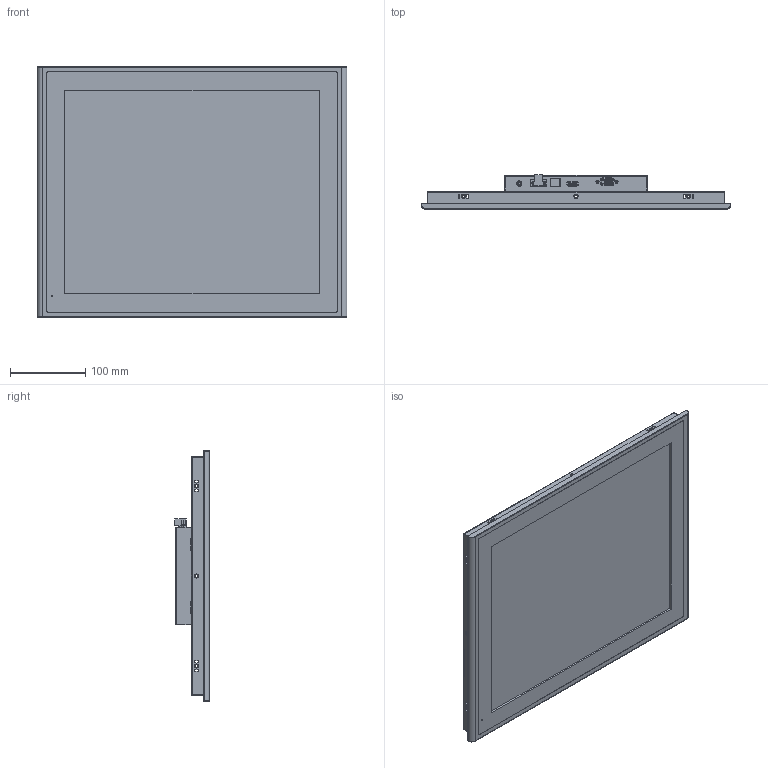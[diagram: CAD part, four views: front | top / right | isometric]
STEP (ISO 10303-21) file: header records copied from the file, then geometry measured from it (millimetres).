
FILE_DESCRIPTION((''),'2;1');
FILE_NAME('FPM-1700D-20241226','2025-08-01T19:29:49',('anthony'),(''),'CREO PARAMETRIC BY PTC INC, 2024063','CREO PARAMETRIC BY PTC INC, 2024063','');
FILE_SCHEMA(('CONFIG_CONTROL_DESIGN','SHAPE_APPEARANCE_LAYERS_GROUPS'));
Products named in the file (1): FPM-1700D-20241226
Bounding box: 412.66 x 46.09 x 333.76 mm (x, y, z)
Surface area: 724444.1 mm2
Topology: 6 solids, 19 shells, 2319 faces, 6652 edges, 4393 vertices
Faces by surface type: plane 1673, cylinder 526, torus 50, cone 42, bspline 24, sphere 4
Entity records: 77767 total; most frequent: CARTESIAN_POINT 17023, ORIENTED_EDGE 12789, DIRECTION 11803, EDGE_CURVE 6648, VECTOR 5137, LINE 5137, VERTEX_POINT 4393, AXIS2_PLACEMENT_3D 3333
